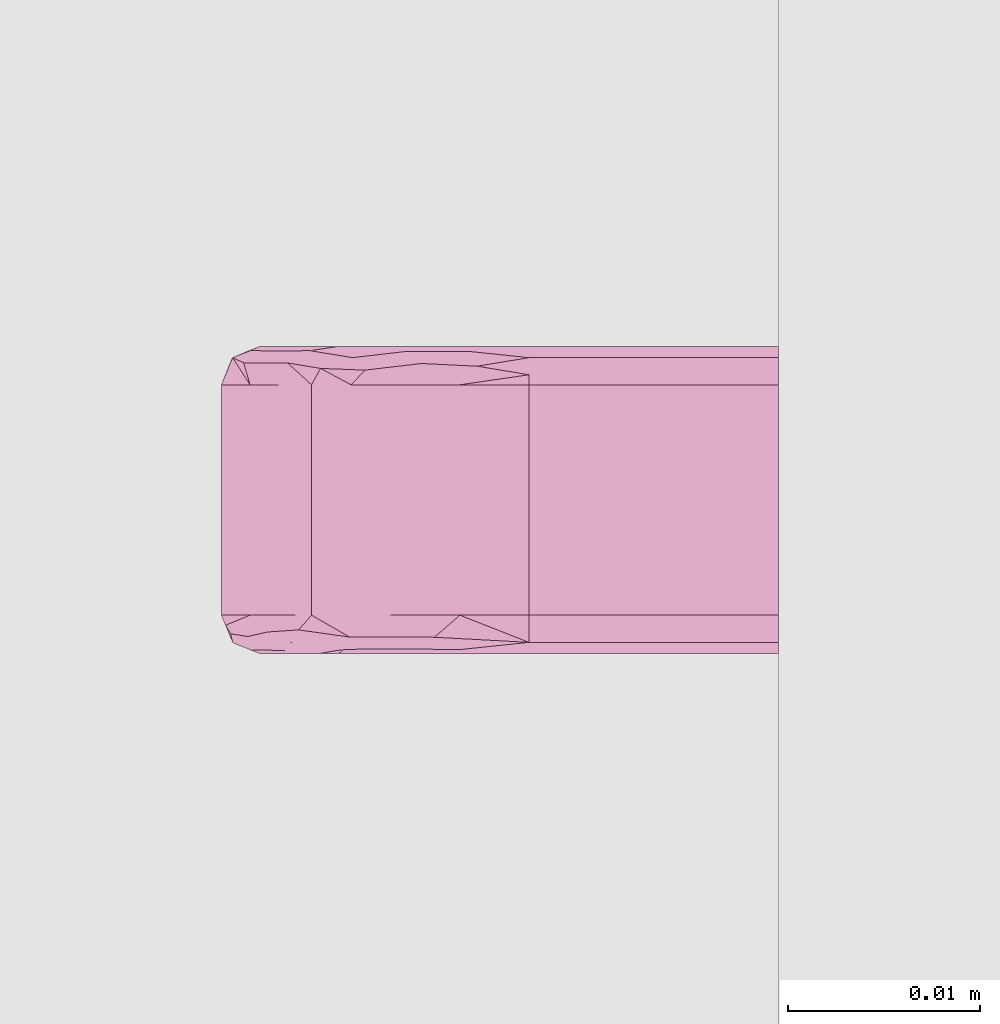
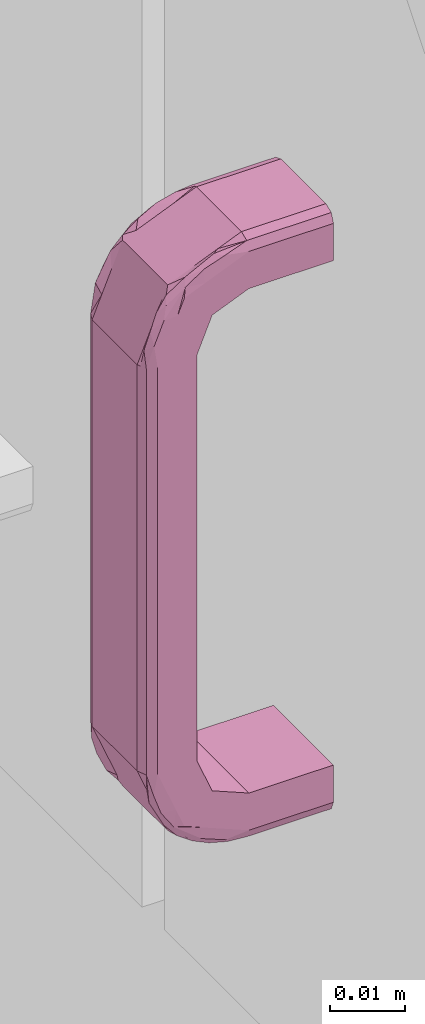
# One storey, part 60 of 65: 1 furnishing.
"""IFC2X3 building model written with IfcOpenShell, lengths in millimetres."""

import ifcopenshell
import ifcopenshell.guid

model = None  # the IFC model being written
_history = None  # IfcOwnerHistory: only IFC2X3 demands one
_inside = {}  # id of a spatial element -> (the spatial element, [elements in it])
_under = {}  # id of a project, library or spatial element -> (it, [spatial elements below it])
_declared = {}  # id of a project -> (the project, [libraries it declares])
_typed = {}  # id of a type object -> (the type object, [elements of that type])
_made_of = {}  # id of a material, layer set ... -> (it, [elements and type objects made of it])


def new_model(schema):
    """Start an empty IFC model of exactly this schema.

    Asked for "IFC4X3", IfcOpenShell would pick the latest addendum, in which some entities
    have other attributes; the version numbers below select the first issue.
    IFC2X3 requires an IfcOwnerHistory on every rooted entity: one is made here for all.
    """
    global model, _history
    if schema == "IFC4X3":
        model = ifcopenshell.file(schema_version=(4, 3, 0, 0))
    else:
        model = ifcopenshell.file(schema=schema)
    _inside.clear()
    _under.clear()
    _declared.clear()
    _typed.clear()
    _made_of.clear()
    _history = None
    if model.schema == "IFC2X3":
        org = make("IfcOrganization", Name="unknown")
        user = make(
            "IfcPersonAndOrganization",
            ThePerson=make("IfcPerson", FamilyName="unknown"),
            TheOrganization=org,
        )
        app = make(
            "IfcApplication",
            ApplicationDeveloper=org,
            Version="unknown",
            ApplicationFullName="unknown",
            ApplicationIdentifier="unknown",
        )
        _history = make(
            "IfcOwnerHistory",
            OwningUser=user,
            OwningApplication=app,
            ChangeAction="ADDED",
            CreationDate=0,
        )
    return model


def make(cls, **values):
    """One entity of the class cls with the attributes given. An attribute that is None is left unset."""
    return model.create_entity(
        cls, **{name: value for name, value in values.items() if value is not None}
    )


def entity(cls, *values):
    """Any entity or typed value of the class cls, its attributes in the order of the schema. None: left unset."""
    e = model.create_entity(cls)
    for i, value in enumerate(values):
        if value is not None:
            e[i] = value
    return e


def rooted(cls, **values):
    """An entity with a GlobalId (a new one), such as an element, a storey or a relation."""
    return make(cls, GlobalId=ifcopenshell.guid.new(), OwnerHistory=_history, **values)


def si_unit(unit_type, name, prefix=None):
    """IfcSIUnit, for example si_unit("LENGTHUNIT", "METRE", prefix="MILLI")."""
    return make("IfcSIUnit", UnitType=unit_type, Prefix=prefix, Name=name)


def converted_unit(unit_type, name, factor, base, dimensions=None, offset=None):
    """IfcConversionBasedUnit, such as the inch: factor (a typed value) times the base unit."""
    return make(
        "IfcConversionBasedUnit"
        if offset is None
        else "IfcConversionBasedUnitWithOffset",
        ConversionOffset=offset,
        Dimensions=None
        if dimensions is None
        else entity("IfcDimensionalExponents", *dimensions),
        UnitType=unit_type,
        Name=name,
        ConversionFactor=make(
            "IfcMeasureWithUnit", ValueComponent=factor, UnitComponent=base
        ),
    )


def assignment(units):
    """IfcUnitAssignment: the units of a project."""
    return None if units is None else make("IfcUnitAssignment", Units=units)


def point(xyz):
    """IfcCartesianPoint."""
    return None if xyz is None else make("IfcCartesianPoint", Coordinates=xyz)


def direction(xyz):
    """IfcDirection."""
    return None if xyz is None else make("IfcDirection", DirectionRatios=xyz)


def frame(location, z_axis=None, x_axis=None):
    """IfcAxis2Placement3D, a coordinate frame: its origin and axes. An axis left out is left unset."""
    return make(
        "IfcAxis2Placement3D",
        Location=point(location),
        Axis=direction(z_axis),
        RefDirection=direction(x_axis),
    )


def origin():
    """The frame at (0, 0, 0) with its axes left unset."""
    return frame((0.0, 0.0, 0.0))


def place(relative_to, where):
    """IfcLocalPlacement: puts the frame where relative to a parent placement (None: the world)."""
    return make(
        "IfcLocalPlacement", PlacementRelTo=relative_to, RelativePlacement=where
    )


def context(
    kind, dimensions, precision=None, world=None, true_north=None, identifier=None
):
    """IfcGeometricRepresentationContext, for example the 3D "Model" context."""
    return make(
        "IfcGeometricRepresentationContext",
        ContextIdentifier=identifier,
        ContextType=kind,
        CoordinateSpaceDimension=dimensions,
        Precision=precision,
        WorldCoordinateSystem=world,
        TrueNorth=true_north,
    )


def subcontext(parent, identifier, kind, view, scale=None):
    """IfcGeometricRepresentationSubContext, for example "Body" below "Model"."""
    return make(
        "IfcGeometricRepresentationSubContext",
        ContextIdentifier=identifier,
        ContextType=kind,
        ParentContext=parent,
        TargetScale=scale,
        TargetView=view,
    )


def project(units=None, contexts=None):
    """IfcProject with its units and contexts."""
    return rooted(
        "IfcProject",
        Name="project",
        RepresentationContexts=contexts,
        UnitsInContext=assignment(units),
    )


def spatial(cls, under=None, at=None, **own):
    """A site, building, storey or space (cls), placed at a placement, below another one or the project."""
    s = rooted(cls, ObjectPlacement=at, **own)
    if under is not None:
        _under.setdefault(under.id(), (under, []))[1].append(s)
    return s


def faces_of(points, faces, orient=None, outer=None):
    """IfcFace entities. A face is a list of loops; a loop is a list of indices into points, from 0.

    orient and outer hold one flag for each loop. By default every Orientation is true, the
    first loop of a face is its IfcFaceOuterBound and the others are IfcFaceBound.
    """
    made = []
    for i, loops in enumerate(faces):
        bounds = []
        for j, loop in enumerate(loops):
            is_outer = j == 0 if outer is None else outer[i][j]
            bounds.append(
                make(
                    "IfcFaceOuterBound" if is_outer else "IfcFaceBound",
                    Bound=make("IfcPolyLoop", Polygon=[points[k] for k in loop]),
                    Orientation=True if orient is None else orient[i][j],
                )
            )
        made.append(make("IfcFace", Bounds=bounds))
    return made


def faceted_brep(points, faces, orient=None, outer=None, voids=None):
    """IfcFacetedBrep: a solid bounded by flat faces; with voids (closed shells), ...WithVoids."""
    shared = [point(p) for p in points]
    hull = make("IfcClosedShell", CfsFaces=faces_of(shared, faces, orient, outer))
    if voids is None:
        return make("IfcFacetedBrep", Outer=hull)
    return make(
        "IfcFacetedBrepWithVoids",
        Outer=hull,
        Voids=[
            make(cls, CfsFaces=faces_of(shared, fs, o, b)) for cls, fs, o, b in voids
        ],
    )


def shape(context_of_items, identifier, shape_type, items):
    """IfcShapeRepresentation: the items that make up one representation, for example the "Body"."""
    return make(
        "IfcShapeRepresentation",
        ContextOfItems=context_of_items,
        RepresentationIdentifier=identifier,
        RepresentationType=shape_type,
        Items=items,
    )


def source(mapping_origin, context_of_items, identifier, shape_type, items):
    """IfcRepresentationMap: a shape defined once, which mapped items show again and again."""
    return make(
        "IfcRepresentationMap",
        MappingOrigin=mapping_origin,
        MappedRepresentation=shape(context_of_items, identifier, shape_type, items),
    )


def transform(
    local_origin,
    x_axis=None,
    y_axis=None,
    z_axis=None,
    scale=None,
    scale2=None,
    scale3=None,
    uniform=True,
):
    """IfcCartesianTransformationOperator3D, or its non-uniform kind. x_axis, y_axis, z_axis: its Axis1, 2, 3."""
    if uniform:
        return make(
            "IfcCartesianTransformationOperator3D",
            Axis1=direction(x_axis),
            Axis2=direction(y_axis),
            LocalOrigin=point(local_origin),
            Scale=scale,
            Axis3=direction(z_axis),
        )
    return make(
        "IfcCartesianTransformationOperator3DnonUniform",
        Axis1=direction(x_axis),
        Axis2=direction(y_axis),
        LocalOrigin=point(local_origin),
        Scale=scale,
        Axis3=direction(z_axis),
        Scale2=scale2,
        Scale3=scale3,
    )


def mapped(mapping_source, mapping_target):
    """IfcMappedItem: shows the shape of a source again, moved by a transform."""
    return make(
        "IfcMappedItem", MappingSource=mapping_source, MappingTarget=mapping_target
    )


def material(Name=None, Category=None):
    """IfcMaterial."""
    return make("IfcMaterial", Name=Name, Category=Category)


def made_of(thing, what):
    """Note that an element or type object is made of a material, layer set ...; save() writes the relation."""
    if what is not None:
        _made_of.setdefault(what.id(), (what, []))[1].append(thing)
    return thing


def type_object(cls, material=None, **own):
    """A type object (cls), such as IfcWallType, which elements share."""
    return made_of(rooted(cls, **own), material)


def type_shapes(of_type, sources):
    """Give a type object the sources (RepresentationMaps) that its elements show as mapped items."""
    of_type.RepresentationMaps = sources


def element(
    cls,
    number,
    at=None,
    inside=None,
    cuts=None,
    type_object=None,
    material=None,
    context=None,
    identifier="Body",
    shape_type=None,
    held_by="IfcProductDefinitionShape",
    body=None,
    shapes=None,
    **own,
):
    """One element of the class cls, such as IfcWall. Its Tag is "e" and its number.

    at: its placement. inside: the storey or other place that contains it. cuts: it is an
    opening in that element (IfcRelVoidsElement). A single representation is given by context,
    identifier, shape_type and body (its items); several are given by shapes. held_by: the class
    of the entity that holds the representations. save() writes the other relations.
    """
    e = rooted(cls, Tag="e%d" % number, ObjectPlacement=at, **own)
    if body is not None:
        shapes = [shape(context, identifier, shape_type, body)]
    if shapes is not None:
        e.Representation = make(held_by, Representations=shapes)
    if inside is not None:
        _inside.setdefault(inside.id(), (inside, []))[1].append(e)
    if cuts is not None:
        rooted(
            "IfcRelVoidsElement", RelatingBuildingElement=cuts, RelatedOpeningElement=e
        )
    if type_object is not None:
        _typed.setdefault(type_object.id(), (type_object, []))[1].append(e)
    return made_of(e, material)


def aggregate(whole, parts):
    """IfcRelAggregates: a whole, such as a stair, and the parts it consists of."""
    return rooted("IfcRelAggregates", RelatingObject=whole, RelatedObjects=parts)


def save(model, path):
    """Write the relations noted so far, then the file.

    IfcRelAggregates (storeys below a building ...), IfcRelContainedInSpatialStructure (elements
    in a storey), IfcRelDefinesByType, IfcRelAssociatesMaterial and IfcRelDeclares: one each for
    every whole, place, type object, material and project.
    """
    for whole, parts in _under.values():
        aggregate(whole, parts)
    for where, things in _inside.values():
        rooted(
            "IfcRelContainedInSpatialStructure",
            RelatedElements=things,
            RelatingStructure=where,
        )
    for kind, things in _typed.values():
        rooted("IfcRelDefinesByType", RelatedObjects=things, RelatingType=kind)
    for what, things in _made_of.values():
        rooted("IfcRelAssociatesMaterial", RelatedObjects=things, RelatingMaterial=what)
    for by, libraries in _declared.values():
        rooted("IfcRelDeclares", RelatingContext=by, RelatedDefinitions=libraries)
    model.write(path)


model = new_model("IFC2X3")

# Units and contexts
model_context = context("Model", 3, precision=0.01, world=origin(), true_north=direction((0.0, 1.0)))
body_context = subcontext(model_context, "Body", "Model", "MODEL_VIEW")
ifc_project = project(units=[si_unit("LENGTHUNIT", "METRE", prefix="MILLI"), si_unit("AREAUNIT", "SQUARE_METRE"), si_unit("VOLUMEUNIT", "CUBIC_METRE"), converted_unit("PLANEANGLEUNIT", "DEGREE", entity("IfcPlaneAngleMeasure", 0.017453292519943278), si_unit("PLANEANGLEUNIT", "RADIAN"), dimensions=[0, 0, 0, 0, 0, 0, 0])], contexts=[model_context])

# Site, building, storey, space
site_placement = place(None, origin())
site = spatial("IfcSite", under=ifc_project, at=site_placement, Name="Default", CompositionType="ELEMENT")
building_placement = place(site_placement, origin())
building = spatial("IfcBuilding", under=site, at=building_placement, CompositionType="ELEMENT")
storey_placement = place(building_placement, origin())
storey = spatial("IfcBuildingStorey", under=building, at=storey_placement, Name="Et. 1", CompositionType="ELEMENT", Elevation=0.0)
space_placement = place(storey_placement, origin())
space = spatial("IfcSpace", under=storey, at=space_placement, Name="113", CompositionType="ELEMENT", InteriorOrExteriorSpace="INTERNAL")

# Furnishing
ifc_material = material(Name="Focus - Kjøkken - Håndtak")
furniture_type = type_object("IfcFurnitureType", Name="Focus - Håndtak Skap:Håndtak skap", AssemblyPlace="NOTDEFINED", material=ifc_material)
shared_shape = source(origin(), body_context, "Body", "Brep", [
    faceted_brep([(-6.0, 0.0, 4.021099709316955), (6.0, 0.0, 4.021099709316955), (7.414213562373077, 0.0, 3.435313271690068), (8.0, 0.0, 2.021099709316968), (8.0, 0.0, -4.0210997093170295), (-8.0, 0.0, -4.0210997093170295), (-8.0, 0.0, 2.021099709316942), (-7.414213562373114, 0.0, 3.435313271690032), (-8.0, 0.0, -92.021099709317), (-8.0, 0.0, -85.97890029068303), (8.0, 0.0, -85.97890029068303), (8.0, 0.0, -92.02109970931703), (7.414213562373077, 0.0, -93.43531327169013), (6.0, 0.0, -94.02109970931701), (-6.0, 0.0, -94.02109970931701), (-7.414213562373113, 0.0, -93.43531327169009), (6.0, -13.0, 4.021099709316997), (7.414213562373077, -13.0, 3.4353132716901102), (7.707106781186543, -13.0, 2.728206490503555), (8.0, -13.0, 2.0210997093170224), (8.0, -16.60126528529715, 0.5294067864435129), (8.0, -19.75783998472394, -0.7780892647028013), (8.0, -22.914414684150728, -2.0855853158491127), (8.0, -23.941085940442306, -4.564188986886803), (8.0, -24.967757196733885, -7.042792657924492), (8.0, -25.994428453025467, -9.52139632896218), (8.0, -27.021099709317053, -12.0), (8.0, -27.021099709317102, -24.345039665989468), (8.0, -27.02109970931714, -36.69008005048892), (8.0, -27.021099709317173, -47.017560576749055), (8.0, -27.02109970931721, -57.34504038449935), (8.0, -27.021099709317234, -65.65496033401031), (8.0, -27.021099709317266, -78.0), (8.0, -25.52940678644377, -81.60126528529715), (8.0, -24.221910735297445, -84.75783998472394), (8.0, -22.914414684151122, -87.91441468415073), (8.0, -20.435811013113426, -88.9410859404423), (8.0, -17.95720734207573, -89.96775719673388), (8.0, -15.478603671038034, -90.99442845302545), (8.0, -13.0, -92.02109970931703), (8.0, -13.0, -85.97890029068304), (8.0, -18.64193450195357, -83.64193450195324), (8.0, -20.978900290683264, -78.0), (8.0, -20.978900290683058, -12.0), (8.0, -18.641934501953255, -6.358065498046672), (8.0, -13.0, -4.021099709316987), (-8.0, -13.0, -4.021099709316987), (-8.0, -13.0, -92.02109970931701), (-8.0, -16.6012653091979, -90.52940677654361), (-8.0, -19.7578399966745, -89.22191073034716), (-8.0, -22.914414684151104, -87.91441468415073), (-8.0, -23.941085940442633, -85.435811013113), (-8.0, -24.967757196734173, -82.9572073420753), (-8.0, -25.99442845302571, -80.47860367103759), (-8.0, -27.021099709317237, -78.0), (-8.0, -27.0210997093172, -65.65496055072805), (-8.0, -27.021099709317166, -55.327480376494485), (-8.0, -27.02109970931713, -45.00000020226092), (-8.0, -27.021099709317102, -34.67252002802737), (-8.0, -27.021099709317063, -24.34503985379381), (-8.0, -27.02109970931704, -12.0), (-8.0, -25.52940677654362, -8.398734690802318), (-8.0, -24.221910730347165, -5.242160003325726), (-8.0, -22.914414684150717, -2.0855853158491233), (-8.0, -20.435811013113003, -1.0589140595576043), (-8.0, -17.9572073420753, -0.032242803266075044), (-8.0, -15.478603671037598, 0.9944284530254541), (-8.0, -13.0, 2.0210997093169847), (-8.0, -18.641934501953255, -6.358065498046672), (-8.0, -20.97890029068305, -12.0), (-8.0, -20.978900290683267, -78.0), (-8.0, -18.64193450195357, -83.64193450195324), (-8.0, -13.0, -85.97890029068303), (-7.414213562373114, -13.0, 3.4353132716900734), (-6.523051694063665, -13.0, 3.8044446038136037), (-6.0, -13.0, 4.021099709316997), (7.77682804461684, -22.641402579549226, -0.588486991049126), (7.761199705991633, -19.755916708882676, 1.3575143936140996), (7.832026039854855, -25.954055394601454, -4.794062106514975), (6.0, -24.3286282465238, -0.6713717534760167), (6.7653668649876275, -25.002953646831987, -1.6197407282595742), (7.138822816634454, -22.341444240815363, 0.5752165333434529), (6.0, -20.2025305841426, 1.0377138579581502), (7.148530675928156, -17.923500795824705, 2.864246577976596), (7.108929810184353, -27.65191997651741, -6.400304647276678), (6.0, -26.037713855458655, -4.797469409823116), (6.0, -26.674863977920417, -6.335685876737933), (6.0, -27.52940678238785, -8.398734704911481), (6.0, -25.18317105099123, -2.734420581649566), (7.807346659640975, -27.454202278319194, -8.476170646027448), (7.7836039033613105, -16.529274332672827, 2.502698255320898), (6.0, -16.60126529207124, 2.529406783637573), (7.414213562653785, -25.40873190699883, -2.82000717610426), (6.873580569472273, -26.597477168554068, -3.91370423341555), (6.0, -21.496471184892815, 0.5017461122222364), (6.523051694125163, -28.804444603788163, -12.0), (6.968390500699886, -28.53877057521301, -9.3033965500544), (6.0, -27.847981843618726, -9.167842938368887), (6.0, -29.021099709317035, -12.0), (7.414213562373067, -28.43531327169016, -12.0), (6.0, -18.664314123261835, 1.67486397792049), (6.0, -25.501746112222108, -3.5035288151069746), (-6.0, -16.601265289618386, 2.529406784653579), (-6.0, -15.832157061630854, 2.847981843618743), (-7.78360391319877, -27.50269824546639, -8.470725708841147), (-7.761199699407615, -26.357514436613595, -5.244083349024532), (-7.10892981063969, -18.599695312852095, 2.651919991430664), (-6.0, -20.2025305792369, 1.0377138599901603), (-6.0, -18.664314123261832, 1.67486397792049), (-7.730939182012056, -16.04875454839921, 2.7104148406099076), (-7.744591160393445, -19.340507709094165, 1.5930015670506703), (-6.76536686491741, -21.540484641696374, 1.3746327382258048), (-6.0, -22.265579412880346, 0.183171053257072), (-6.0, -21.496471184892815, 0.5017461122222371), (-7.148530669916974, -27.864246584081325, -7.076499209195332), (-7.138822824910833, -25.57521654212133, -2.6585557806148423), (-6.0, -26.037713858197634, -4.7974694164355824), (-7.414213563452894, -22.17999279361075, 0.4087319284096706), (-7.776828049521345, -24.411513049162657, -2.3585974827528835), (-6.853012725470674, -23.855367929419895, -0.47819170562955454), (-7.414213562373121, -28.43531327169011, -12.0), (-6.0, -27.529406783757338, -8.398734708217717), (-6.0, -25.501746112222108, -3.5035288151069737), (-6.0, -24.3286282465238, -0.6713717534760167), (-7.7071067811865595, -27.728206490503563, -12.0), (-6.96839049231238, -15.696603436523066, 3.5387705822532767), (-6.0, -29.021099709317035, -12.0), (-6.0, -26.67486397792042, -6.33568587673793), (7.414213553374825, -28.435313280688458, -29.508780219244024), (6.0, -29.021099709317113, -34.67252039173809), (7.450985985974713, -28.39755881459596, -41.853819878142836), (7.41421354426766, -28.435313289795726, -61.49999992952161), (6.0, -29.02109970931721, -65.65496032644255), (7.4142135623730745, -28.435313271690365, -78.0), (6.0, -29.02109970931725, -78.0), (6.0, -29.02109970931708, -24.345039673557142), (7.707106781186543, -27.728206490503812, -78.0), (6.0, -29.02109970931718, -55.3274796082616), (6.0, -29.021099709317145, -45.0), (-7.414213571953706, -28.435313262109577, -29.50878047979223), (-6.0, -29.02109970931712, -36.69007988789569), (-6.0, -29.021099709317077, -24.345040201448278), (-7.414213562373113, -28.43531327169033, -78.0), (-7.414213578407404, -28.435313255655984, -61.499999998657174), (-6.0, -29.021099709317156, -47.017559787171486), (-7.376459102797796, -28.472085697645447, -41.85382016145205), (-6.0, -29.021099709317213, -65.6549603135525), (-6.523051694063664, -28.80444460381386, -78.0), (-6.0, -29.02109970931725, -78.0), (-6.0, -29.021099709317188, -57.34504020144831), (7.776828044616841, -24.411513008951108, -87.64140257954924), (7.7611997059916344, -26.357514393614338, -84.7559167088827), (7.8320260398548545, -20.20593789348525, -90.95405539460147), (6.0, -24.328628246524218, -89.32862824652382), (6.0, -22.265579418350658, -90.18317105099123), (6.7653668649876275, -23.38025927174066, -90.002953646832), (6.0, -26.037713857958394, -85.2025305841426), (7.138822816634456, -25.575216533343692, -87.34144424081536), (7.148530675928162, -27.864246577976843, -82.92350079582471), (7.108929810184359, -18.599695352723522, -92.65191997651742), (6.0, -20.202530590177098, -91.03771385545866), (6.0, -18.66431412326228, -91.67486397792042), (6.0, -16.601265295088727, -92.52940678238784), (6.873580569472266, -21.086295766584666, -91.5974771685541), (6.0, -21.49647118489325, -90.50174611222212), (7.8073466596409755, -16.5238293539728, -92.45420227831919), (7.78360390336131, -27.50269825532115, -81.52927433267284), (6.0, -27.529406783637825, -81.60126529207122), (7.414213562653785, -22.179992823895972, -90.40873190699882), (6.0, -25.50174611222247, -86.49647118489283), (6.523051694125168, -13.0, -93.80444460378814), (6.968390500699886, -15.696603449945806, -93.53877057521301), (6.0, -15.832157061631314, -92.84798184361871), (6.0, -13.0, -94.02109970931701), (7.414213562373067, -13.0, -93.43531327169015), (6.0, -26.674863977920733, -83.66431412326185), (-6.0, -27.529406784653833, -81.60126528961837), (-6.0, -27.84798184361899, -80.83215706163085), (-7.7836039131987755, -16.529274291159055, -92.50269824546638), (-7.7611996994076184, -19.755916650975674, -91.3575144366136), (-7.108929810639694, -27.651919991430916, -83.59969531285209), (-6.0, -26.03771385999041, -85.20253057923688), (-6.0, -26.67486397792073, -83.66431412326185), (-7.730939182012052, -27.71041484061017, -81.04875454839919), (-7.74459116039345, -26.593001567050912, -84.34050770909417), (-6.76536686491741, -26.374632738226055, -86.54048464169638), (-6.0, -25.18317105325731, -87.26557941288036), (-6.0, -25.50174611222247, -86.49647118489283), (-7.148530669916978, -17.923500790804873, -92.86424658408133), (-7.138822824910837, -22.341444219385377, -90.57521654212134), (-6.0, -20.20253058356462, -91.03771385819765), (-7.414213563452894, -25.40873192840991, -87.17999279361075), (-7.776828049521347, -22.64140251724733, -89.41151304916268), (-6.853012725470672, -24.52180829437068, -88.85536792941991), (-7.41421356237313, -13.0, -93.43531327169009), (-6.0, -16.601265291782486, -92.52940678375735), (-6.0, -21.49647118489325, -90.50174611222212), (-6.0, -24.328628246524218, -89.32862824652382), (-7.707106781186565, -13.0, -92.72820649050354), (-6.96839049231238, -28.538770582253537, -80.69660343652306), (-6.0, -13.0, -94.02109970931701), (-6.0, -18.66431412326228, -91.67486397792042)], [[[0, 1, 2, 3, 4, 5, 6, 7]], [[8, 9, 10, 11, 12, 13, 14, 15]], [[16, 17, 2, 1]], [[2, 17, 18, 19, 3]], [[4, 3, 19, 20, 21, 22, 23, 24, 25, 26, 27, 28, 29, 30, 31, 32, 33, 34, 35, 36, 37, 38, 39, 11, 10, 40, 41, 42, 43, 44, 45]], [[5, 4, 45, 46]], [[9, 8, 47, 48, 49, 50, 51, 52, 53, 54, 55, 56, 57, 58, 59, 60, 61, 62, 63, 64, 65, 66, 67, 6, 5, 46, 68, 69, 70, 71, 72]], [[67, 73, 7, 6]], [[7, 73, 74, 75, 0]], [[1, 0, 75, 16]], [[76, 21, 77]], [[78, 24, 23]], [[79, 80, 81]], [[82, 81, 83]], [[84, 85, 86, 87]], [[80, 79, 88]], [[89, 24, 78]], [[90, 77, 20]], [[17, 91, 83]], [[92, 93, 84]], [[81, 82, 94, 79]], [[87, 95, 96]], [[77, 83, 81]], [[23, 76, 78]], [[93, 92, 80]], [[22, 76, 23]], [[90, 17, 83]], [[19, 18, 17, 90]], [[95, 87, 97, 98]], [[99, 26, 89]], [[76, 77, 81]], [[20, 19, 90]], [[92, 76, 81]], [[21, 76, 22]], [[21, 20, 77]], [[83, 77, 90]], [[91, 17, 16]], [[83, 91, 100, 82]], [[93, 88, 101, 85]], [[81, 80, 92]], [[88, 93, 80]], [[85, 84, 93]], [[76, 92, 78]], [[92, 84, 78]], [[89, 78, 84]], [[84, 96, 89]], [[89, 26, 25, 24]], [[96, 95, 99]], [[89, 96, 99]], [[87, 96, 84]], [[44, 68, 46, 45]], [[43, 69, 68, 44]], [[74, 102, 103, 75]], [[104, 105, 61]], [[106, 107, 108, 102]], [[109, 110, 106]], [[111, 112, 113, 107]], [[105, 114, 115]], [[115, 114, 116]], [[110, 64, 117]], [[118, 62, 105]], [[106, 110, 117]], [[117, 119, 111]], [[120, 121, 114]], [[115, 116, 122, 123]], [[112, 111, 119]], [[119, 117, 118]], [[63, 118, 64]], [[104, 120, 114]], [[60, 124, 120, 104]], [[109, 125, 73]], [[125, 109, 106]], [[118, 105, 115]], [[61, 60, 104]], [[118, 115, 119]], [[62, 118, 63]], [[62, 61, 105]], [[114, 105, 104]], [[121, 120, 126]], [[114, 121, 127, 116]], [[107, 106, 111]], [[106, 117, 111]], [[115, 123, 119]], [[112, 119, 123]], [[64, 118, 117]], [[125, 74, 73]], [[102, 74, 125]], [[102, 125, 106]], [[73, 67, 109]], [[66, 65, 64, 110]], [[110, 109, 66]], [[109, 67, 66]], [[122, 116, 127, 121, 126, 98, 97, 87, 86, 85, 101, 88, 79, 123]], [[79, 94, 82, 100, 91, 16, 75, 103, 102, 108, 107, 113, 112, 123]], [[128, 28, 27, 99]], [[129, 130, 128]], [[29, 130, 131]], [[132, 133, 131]], [[132, 134, 133]], [[135, 99, 95, 98]], [[128, 99, 135, 129]], [[30, 29, 131, 31]], [[31, 133, 136, 32]], [[27, 26, 99]], [[31, 131, 133]], [[130, 137, 131]], [[28, 130, 29]], [[129, 138, 137, 130]], [[28, 128, 130]], [[137, 132, 131]], [[69, 43, 42, 70]], [[139, 140, 141, 120]], [[55, 142, 143]], [[144, 145, 143]], [[146, 142, 147, 148]], [[141, 126, 120]], [[55, 54, 142]], [[59, 120, 124, 60]], [[139, 120, 59, 58]], [[146, 149, 144, 143]], [[58, 145, 139]], [[146, 143, 142]], [[145, 56, 143]], [[140, 145, 144]], [[58, 57, 56, 145]], [[140, 139, 145]], [[56, 55, 143]], [[98, 126, 141, 140, 144, 149, 146, 148, 134, 132, 137, 138, 129, 135]], [[150, 34, 151]], [[152, 37, 36]], [[153, 154, 155]], [[156, 157, 158]], [[159, 160, 161, 162]], [[163, 154, 164, 160]], [[165, 37, 152]], [[166, 151, 33]], [[133, 167, 158]], [[168, 163, 159]], [[157, 156, 169, 153]], [[162, 170, 171]], [[151, 158, 157]], [[36, 150, 152]], [[163, 168, 155]], [[35, 150, 36]], [[166, 133, 158]], [[32, 136, 133, 166]], [[170, 162, 172, 173]], [[174, 39, 165]], [[150, 151, 157]], [[33, 32, 166]], [[168, 150, 157]], [[34, 150, 35]], [[34, 33, 151]], [[158, 151, 166]], [[167, 133, 134]], [[158, 167, 175, 156]], [[168, 157, 155]], [[157, 153, 155]], [[154, 163, 155]], [[160, 159, 163]], [[150, 168, 152]], [[168, 159, 152]], [[165, 152, 159]], [[159, 171, 165]], [[165, 39, 38, 37]], [[171, 170, 174]], [[165, 171, 174]], [[162, 171, 159]], [[41, 71, 70, 42]], [[40, 72, 71, 41]], [[147, 176, 177, 148]], [[178, 179, 48]], [[180, 181, 182, 176]], [[183, 184, 180]], [[185, 186, 187, 181]], [[179, 188, 189]], [[189, 188, 190]], [[184, 51, 191]], [[192, 49, 179]], [[180, 184, 191]], [[191, 193, 185]], [[194, 195, 188]], [[189, 190, 196, 197]], [[186, 185, 193]], [[193, 191, 192]], [[50, 192, 51]], [[178, 194, 188]], [[47, 198, 194, 178]], [[183, 199, 142]], [[199, 183, 180]], [[192, 179, 189]], [[48, 47, 178]], [[192, 189, 193]], [[49, 192, 50]], [[49, 48, 179]], [[188, 179, 178]], [[195, 194, 200]], [[188, 195, 201, 190]], [[181, 180, 185]], [[180, 191, 185]], [[189, 197, 193]], [[186, 193, 197]], [[51, 192, 191]], [[199, 147, 142]], [[176, 147, 199]], [[176, 199, 180]], [[142, 54, 183]], [[53, 52, 51, 184]], [[184, 183, 53]], [[183, 54, 53]], [[196, 190, 201, 195, 200, 173, 172, 162, 161, 160, 164, 154, 153, 197]], [[153, 169, 156, 175, 167, 134, 148, 177, 176, 182, 181, 187, 186, 197]], [[13, 12, 174, 170, 173]], [[174, 12, 11, 39]], [[72, 40, 10, 9]], [[8, 15, 194, 198, 47]], [[194, 15, 14, 200]], [[173, 200, 14, 13]]]),
])
type_shapes(furniture_type, [shared_shape])
furnishing_placement = place(space_placement, frame((33549.00958675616, 10816.058719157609, 1440.0), z_axis=(0.0, 0.0, 1.0), x_axis=(0.0, -1.0, 0.0)))
element("IfcFurnishingElement", 1, at=furnishing_placement, inside=space, type_object=furniture_type, material=ifc_material, Name="Focus - Håndtak Skap:Håndtak skap", context=body_context, shape_type="MappedRepresentation", body=[
    mapped(shared_shape, transform((0.0, 0.0, 0.0), scale=1.0)),
])

save(model, "model.ifc")
